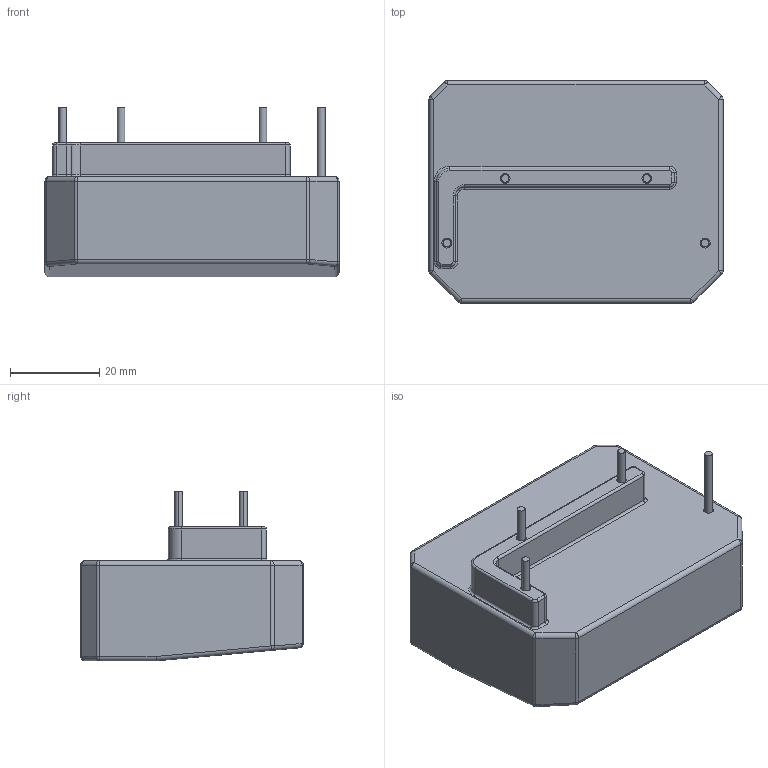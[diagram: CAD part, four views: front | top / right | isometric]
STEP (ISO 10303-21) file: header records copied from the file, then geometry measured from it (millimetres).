
FILE_DESCRIPTION (( 'STEP AP203' ), '1' );
FILE_NAME ('3D - ÜSS HSW7010 Außenkontur.STEP', '2019-08-13T13:50:34', ( '' ), ( '' ), 'SwSTEP 2.0', 'SolidWorks 2013', '' );
FILE_SCHEMA (( 'CONFIG_CONTROL_DESIGN' ));
Length unit declared in the file: millimetre
Products named in the file (1): 3D - ÜSS HSW7010 Außenkontur
Bounding box: 66 x 50 x 38.1 mm (x, y, z)
Surface area: 14794.8 mm2 (no closed solid volume)
Topology: 0 solids, 10 shells, 316 faces, 892 edges, 588 vertices
Faces by surface type: plane 156, cylinder 77, cone 33, bspline 20, sphere 18, torus 12
Entity records: 11272 total; most frequent: CARTESIAN_POINT 3069, DIRECTION 1691, ORIENTED_EDGE 1563, EDGE_CURVE 884, VERTEX_POINT 588, VECTOR 587, LINE 587, AXIS2_PLACEMENT_3D 552
